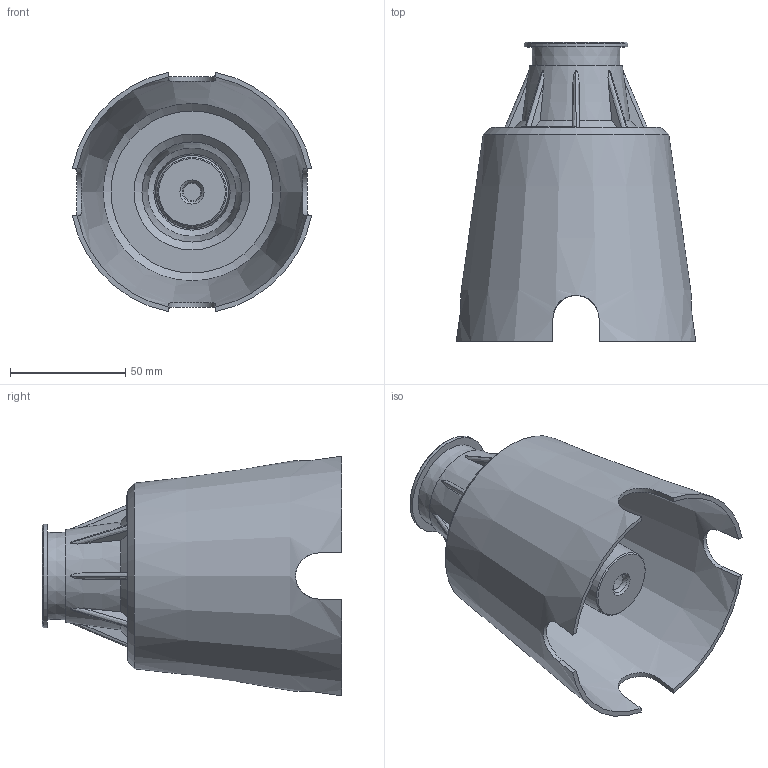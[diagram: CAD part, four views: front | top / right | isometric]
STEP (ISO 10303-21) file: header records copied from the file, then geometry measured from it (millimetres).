
FILE_DESCRIPTION(/* description */ (''),/* implementation_level */ '2;1');
FILE_NAME(/* name */ 'BUIO TRIM.stp',/* time_stamp */ '2024-05-17T09:00:00+02:00',/* author */ ('n.bisotti'),/* organization */ (''),/* preprocessor_version */ 'ST-DEVELOPER v19.2',/* originating_system */ 'Autodesk Inventor 2023',/* authorisation */ '');
FILE_SCHEMA (('AUTOMOTIVE_DESIGN { 1 0 10303 214 3 1 1 }'));
Length unit declared in the file: millimetre
Products named in the file (1): Parte2
Bounding box: 104.1 x 130 x 104.1 mm (x, y, z)
Volume: 114387.1 mm3; surface area: 98427.3 mm2
Topology: 10 solids, 11 shells, 321 faces, 783 edges, 520 vertices
Faces by surface type: plane 141, bspline 116, cone 30, cylinder 29, torus 5
Full cylindrical faces by diameter (mm): 21 x1, 21.5 x1, 22 x2, 22.1 x1, 22.5 x3, 24.3 x1, 24.5 x1, 26.2 x1, 26.5 x2, 26.7 x2, 26.917 x1, 27 x1, 28 x1, 30 x3, 30.8 x1, 34 x2, 45 x1
Entity records: 11282 total; most frequent: CARTESIAN_POINT 4171, ORIENTED_EDGE 1566, DIRECTION 1014, EDGE_CURVE 783, VERTEX_POINT 520, EDGE_LOOP 371, AXIS2_PLACEMENT_3D 339, LINE 336
